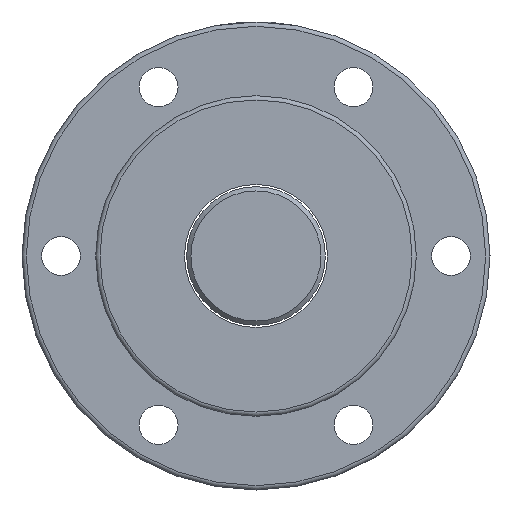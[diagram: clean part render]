
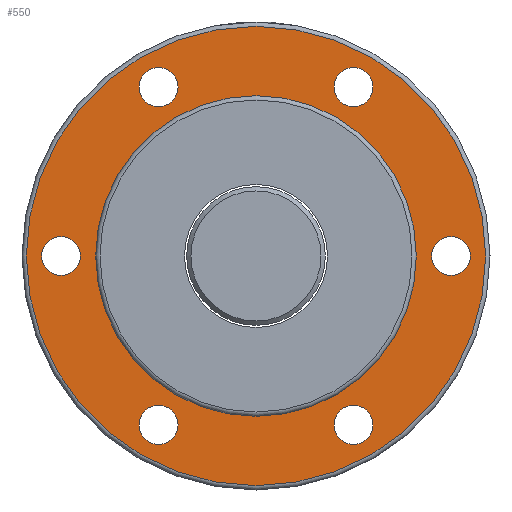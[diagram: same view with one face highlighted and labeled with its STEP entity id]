
A CAD part, left-side view. The second image highlights one B-rep face of the part: STEP entity #550.
In plain terms, the highlighted planar face has unit normal (-1, 0, 0).
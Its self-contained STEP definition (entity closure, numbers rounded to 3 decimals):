
#68=PLANE('',#653);
#146=ORIENTED_EDGE('',*,*,#223,.F.);
#147=ORIENTED_EDGE('',*,*,#226,.T.);
#148=ORIENTED_EDGE('',*,*,#222,.F.);
#149=ORIENTED_EDGE('',*,*,#218,.F.);
#150=ORIENTED_EDGE('',*,*,#214,.F.);
#151=ORIENTED_EDGE('',*,*,#210,.F.);
#152=ORIENTED_EDGE('',*,*,#206,.F.);
#153=ORIENTED_EDGE('',*,*,#202,.F.);
#202=EDGE_CURVE('',#255,#255,#298,.T.);
#206=EDGE_CURVE('',#259,#259,#302,.T.);
#210=EDGE_CURVE('',#263,#263,#306,.T.);
#214=EDGE_CURVE('',#267,#267,#310,.T.);
#218=EDGE_CURVE('',#271,#271,#314,.T.);
#222=EDGE_CURVE('',#275,#275,#318,.T.);
#223=EDGE_CURVE('',#276,#276,#319,.T.);
#226=EDGE_CURVE('',#279,#279,#322,.T.);
#255=VERTEX_POINT('',#911);
#259=VERTEX_POINT('',#922);
#263=VERTEX_POINT('',#933);
#267=VERTEX_POINT('',#944);
#271=VERTEX_POINT('',#955);
#275=VERTEX_POINT('',#966);
#276=VERTEX_POINT('',#969);
#279=VERTEX_POINT('',#979);
#298=CIRCLE('',#608,4.5);
#302=CIRCLE('',#615,4.5);
#306=CIRCLE('',#622,4.5);
#310=CIRCLE('',#629,4.5);
#314=CIRCLE('',#636,4.5);
#318=CIRCLE('',#643,4.5);
#319=CIRCLE('',#645,53.);
#322=CIRCLE('',#652,37.);
#391=EDGE_LOOP('',(#146));
#392=EDGE_LOOP('',(#147));
#393=EDGE_LOOP('',(#148));
#394=EDGE_LOOP('',(#149));
#395=EDGE_LOOP('',(#150));
#396=EDGE_LOOP('',(#151));
#397=EDGE_LOOP('',(#152));
#398=EDGE_LOOP('',(#153));
#478=FACE_BOUND('',#391,.T.);
#479=FACE_BOUND('',#392,.T.);
#480=FACE_BOUND('',#393,.T.);
#481=FACE_BOUND('',#394,.T.);
#482=FACE_BOUND('',#395,.T.);
#483=FACE_BOUND('',#396,.T.);
#484=FACE_BOUND('',#397,.T.);
#485=FACE_BOUND('',#398,.T.);
#550=ADVANCED_FACE('',(#478,#479,#480,#481,#482,#483,#484,#485),#68,.T.);
#608=AXIS2_PLACEMENT_3D('',#910,#712,#713);
#615=AXIS2_PLACEMENT_3D('',#921,#726,#727);
#622=AXIS2_PLACEMENT_3D('',#932,#740,#741);
#629=AXIS2_PLACEMENT_3D('',#943,#754,#755);
#636=AXIS2_PLACEMENT_3D('',#954,#768,#769);
#643=AXIS2_PLACEMENT_3D('',#965,#782,#783);
#645=AXIS2_PLACEMENT_3D('',#968,#786,#787);
#652=AXIS2_PLACEMENT_3D('',#978,#800,#801);
#653=AXIS2_PLACEMENT_3D('',#980,#802,#803);
#712=DIRECTION('',(-1.,0.,0.));
#713=DIRECTION('',(0.,-1.,0.));
#726=DIRECTION('',(-1.,0.,0.));
#727=DIRECTION('',(0.,-1.,0.));
#740=DIRECTION('',(-1.,0.,0.));
#741=DIRECTION('',(0.,-1.,0.));
#754=DIRECTION('',(-1.,0.,0.));
#755=DIRECTION('',(0.,-1.,0.));
#768=DIRECTION('',(-1.,0.,0.));
#769=DIRECTION('',(0.,-1.,0.));
#782=DIRECTION('',(-1.,0.,0.));
#783=DIRECTION('',(0.,-1.,0.));
#786=DIRECTION('',(1.,0.,0.));
#787=DIRECTION('',(0.,1.,0.));
#800=DIRECTION('',(1.,0.,0.));
#801=DIRECTION('',(0.,1.,0.));
#802=DIRECTION('',(-1.,0.,0.));
#803=DIRECTION('',(0.,-1.,0.));
#910=CARTESIAN_POINT('',(-31.,45.,0.));
#911=CARTESIAN_POINT('',(-31.,40.5,0.));
#921=CARTESIAN_POINT('',(-31.,-45.,0.));
#922=CARTESIAN_POINT('',(-31.,-49.5,0.));
#932=CARTESIAN_POINT('',(-31.,22.5,-38.971));
#933=CARTESIAN_POINT('',(-31.,18.,-38.971));
#943=CARTESIAN_POINT('',(-31.,-22.5,-38.971));
#944=CARTESIAN_POINT('',(-31.,-27.,-38.971));
#954=CARTESIAN_POINT('',(-31.,-22.5,38.971));
#955=CARTESIAN_POINT('',(-31.,-27.,38.971));
#965=CARTESIAN_POINT('',(-31.,22.5,38.971));
#966=CARTESIAN_POINT('',(-31.,18.,38.971));
#968=CARTESIAN_POINT('',(-31.,0.,0.));
#969=CARTESIAN_POINT('',(-31.,53.,0.));
#978=CARTESIAN_POINT('',(-31.,0.,0.));
#979=CARTESIAN_POINT('',(-31.,37.,0.));
#980=CARTESIAN_POINT('',(-31.,45.,0.));
